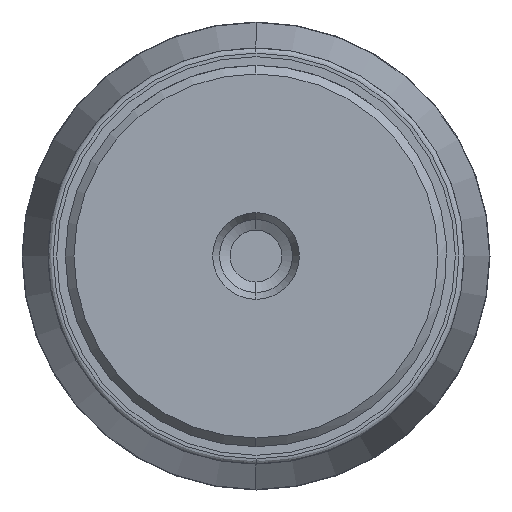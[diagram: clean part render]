
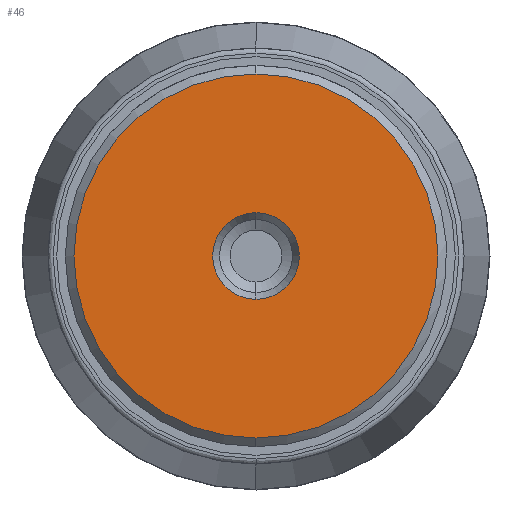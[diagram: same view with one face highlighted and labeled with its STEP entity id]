
A CAD part, left-side view. The second image highlights one B-rep face of the part: STEP entity #46.
In plain terms, the highlighted planar face has unit normal (-1, 0, 0).
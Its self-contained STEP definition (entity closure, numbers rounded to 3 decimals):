
#46=ADVANCED_FACE('',(#154,#155),#153,.F.);
#153=PLANE('',#634);
#154=FACE_OUTER_BOUND('',#635,.T.);
#155=FACE_BOUND('',#636,.T.);
#631=CARTESIAN_POINT('',(-26.,-21.824,13.65));
#632=DIRECTION('',(1.,0.,0.));
#633=DIRECTION('',(0.,0.,-1.));
#634=AXIS2_PLACEMENT_3D('',#631,#632,#633);
#635=EDGE_LOOP('',(#1147,#1148));
#636=EDGE_LOOP('',(#1149,#1150));
#1147=ORIENTED_EDGE('',*,*,#1363,.T.);
#1148=ORIENTED_EDGE('',*,*,#1364,.T.);
#1149=ORIENTED_EDGE('',*,*,#1365,.F.);
#1150=ORIENTED_EDGE('',*,*,#1366,.F.);
#1363=EDGE_CURVE('',#1584,#1585,#1586,.T.);
#1364=EDGE_CURVE('',#1585,#1584,#1592,.T.);
#1365=EDGE_CURVE('',#1598,#1599,#1600,.T.);
#1366=EDGE_CURVE('',#1599,#1598,#1606,.T.);
#1584=VERTEX_POINT('',#2263);
#1585=VERTEX_POINT('',#2264);
#1586=CIRCLE('',#2268,10.5);
#1592=CIRCLE('',#2272,10.5);
#1598=VERTEX_POINT('',#2273);
#1599=VERTEX_POINT('',#2274);
#1600=CIRCLE('',#2278,2.5);
#1606=CIRCLE('',#2282,2.5);
#2263=CARTESIAN_POINT('',(-26.,0.,10.5));
#2264=CARTESIAN_POINT('',(-26.,0.,-10.5));
#2265=CARTESIAN_POINT('',(-26.,0.,0.));
#2266=DIRECTION('',(-1.,0.,0.));
#2267=DIRECTION('',(0.,0.,1.));
#2268=AXIS2_PLACEMENT_3D('',#2265,#2266,#2267);
#2269=CARTESIAN_POINT('',(-26.,0.,0.));
#2270=DIRECTION('',(-1.,0.,0.));
#2271=DIRECTION('',(0.,0.,1.));
#2272=AXIS2_PLACEMENT_3D('',#2269,#2270,#2271);
#2273=CARTESIAN_POINT('',(-26.,0.,-2.5));
#2274=CARTESIAN_POINT('',(-26.,0.,2.5));
#2275=CARTESIAN_POINT('',(-26.,0.,0.));
#2276=DIRECTION('',(-1.,0.,0.));
#2277=DIRECTION('',(0.,0.,1.));
#2278=AXIS2_PLACEMENT_3D('',#2275,#2276,#2277);
#2279=CARTESIAN_POINT('',(-26.,0.,0.));
#2280=DIRECTION('',(-1.,0.,0.));
#2281=DIRECTION('',(0.,0.,1.));
#2282=AXIS2_PLACEMENT_3D('',#2279,#2280,#2281);
